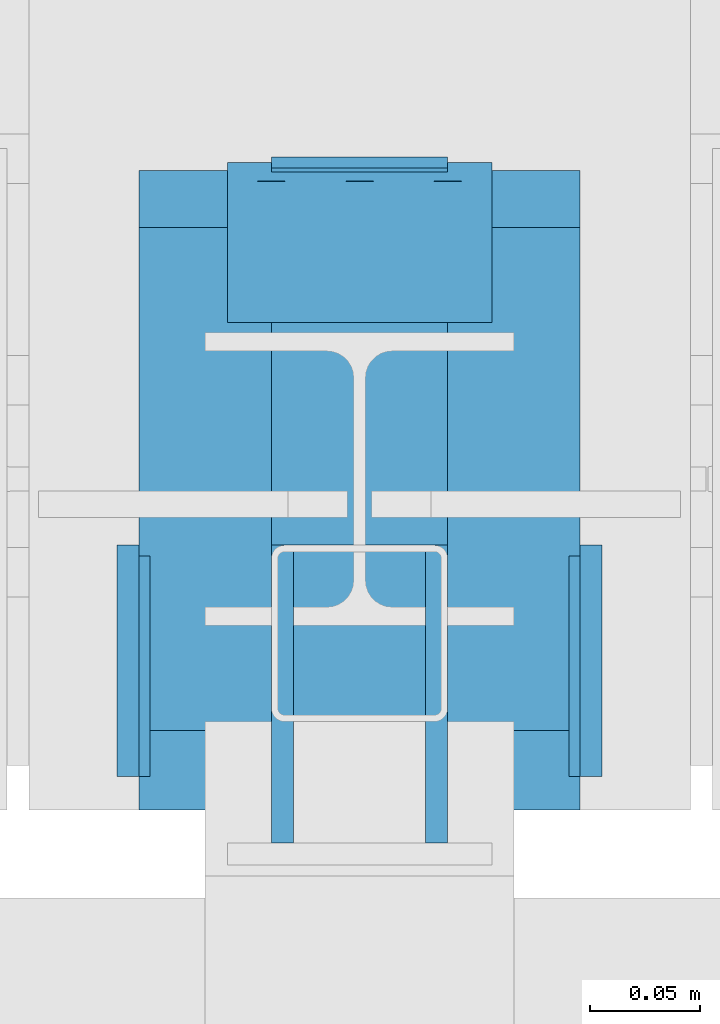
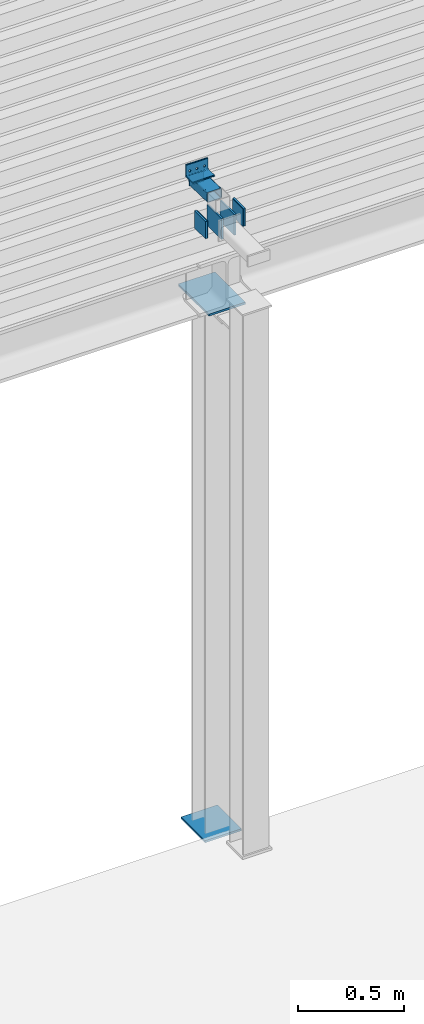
# One storey, part 7 of 34: 10 beams, 1 member.
"""IFC2X3 building model written with IfcOpenShell, lengths in millimetres."""

from ifc_helpers import new_model, entity, si_unit, converted_unit, derived_unit, direction, frame, origin_with_axes, origin_2d_with_axis, place, context, subcontext, project, spatial, rectangle, hollow_rectangle, circle, l_section, extrude, boolean, clip, halfspace, material, type_object, element, save


model = new_model("IFC2X3")

# Units and contexts
model_context = context("Model", 3, precision=0.01, world=frame((0.0, 4.29681676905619e-09, 0.0)), true_north=direction((4.01073788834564e-13, 1.0)))
plan_context = context("Plan", 3, precision=0.01, world=frame((0.0, 4.29681676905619e-09, 0.0)), true_north=direction((4.01073788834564e-13, 1.0)))
body_context = subcontext(model_context, "Body", "Model", "MODEL_VIEW")
ifc_project = project(units=[converted_unit("PLANEANGLEUNIT", "DEGREE", entity("IfcPositiveLengthMeasure", 0.0174532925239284), si_unit("PLANEANGLEUNIT", "RADIAN"), dimensions=[0, 0, 0, 0, 0, 0, 0]), si_unit("AREAUNIT", "SQUARE_METRE"), si_unit("LENGTHUNIT", "METRE", prefix="MILLI"), si_unit("MASSUNIT", "GRAM", prefix="KILO"), si_unit("POWERUNIT", "WATT"), si_unit("PRESSUREUNIT", "PASCAL"), si_unit("FORCEUNIT", "NEWTON", prefix="KILO"), si_unit("ELECTRICVOLTAGEUNIT", "VOLT"), si_unit("ELECTRICCURRENTUNIT", "AMPERE"), si_unit("THERMODYNAMICTEMPERATUREUNIT", "DEGREE_CELSIUS"), si_unit("TIMEUNIT", "SECOND"), si_unit("VOLUMEUNIT", "CUBIC_METRE"), derived_unit("LINEARVELOCITYUNIT", [(si_unit("LENGTHUNIT", "METRE"), 1), (si_unit("TIMEUNIT", "SECOND"), -1)]), derived_unit("VOLUMETRICFLOWRATEUNIT", [(si_unit("VOLUMEUNIT", "CUBIC_METRE"), 1), (si_unit("TIMEUNIT", "SECOND"), -1)]), derived_unit("THERMALTRANSMITTANCEUNIT", [(si_unit("POWERUNIT", "WATT"), 1), (si_unit("THERMODYNAMICTEMPERATUREUNIT", "KELVIN"), -1), (si_unit("AREAUNIT", "SQUARE_METRE"), -1)]), derived_unit("SOUNDPRESSUREUNIT", [(si_unit("PRESSUREUNIT", "PASCAL"), 1)])], contexts=[model_context, plan_context])

# Site, building, storey
site_placement = place(None, frame((0.0, -4.29681676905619e-09, 0.0), z_axis=(0.0, 0.0, 1.0), x_axis=(1.0, 0.0, 0.0)))
site = spatial("IfcSite", under=ifc_project, at=site_placement, Name="Gardermoen", CompositionType="ELEMENT")
building_placement = place(site_placement, frame((0.0, 4.29681676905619e-09, 0.0), z_axis=(0.0, 0.0, 1.0), x_axis=(1.0, 0.0, 0.0)))
building = spatial("IfcBuilding", under=site, at=building_placement, Name="TH", CompositionType="ELEMENT")
storey_placement = place(building_placement, origin_with_axes())
storey = spatial("IfcBuildingStorey", under=building, at=storey_placement, Name="F", CompositionType="ELEMENT", Elevation=0.0)

# Beams
ifc_material_1 = material(Name="STEEL/S355")
beam_type_1 = type_object("IfcBeamType", Name="PL10*100", PredefinedType="NOTDEFINED")
for number, where, z_axis, x_axis in (
    (1, (906895.000000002, 484864.999999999, 213599.998875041), (0.0, 0.0, 1.0), (0.0, 1.0, 0.0)),
    (2, (907105.000000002, 484864.999999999, 213599.998875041), (0.0, 0.0, 1.0), (0.0, 1.0, 0.0)),
):
    element("IfcBeam", number, at=place(storey_placement, frame(where, z_axis=z_axis, x_axis=x_axis)), inside=storey, type_object=beam_type_1, material=ifc_material_1, Name="STÅLSPESIAL", ObjectType="PL10*100", context=body_context, shape_type="SweptSolid", body=[
        extrude(rectangle(XDim=10.0, YDim=100.0, at=origin_2d_with_axis()), frame((105.000000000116, 0.0, 0.0), z_axis=(-1.0, 0.0, 6.61744490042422e-24), x_axis=(0.0, -1.0, 0.0)), (0.0, 0.0, 1.0), 105.0),
    ])
ifc_material_2 = material(Name="STEEL/AISI304")
beam_type_2 = type_object("IfcBeamType", Name="PL5*100", PredefinedType="NOTDEFINED")
for number, where, z_axis, x_axis in (
    (3, (906902.500000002, 484864.999999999, 213599.998875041), (0.0, 0.0, 1.0), (0.0, 1.0, 0.0)),
    (4, (907097.500000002, 484864.999999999, 213599.998875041), (0.0, 0.0, 1.0), (0.0, 1.0, 0.0)),
):
    element("IfcBeam", number, at=place(storey_placement, frame(where, z_axis=z_axis, x_axis=x_axis)), inside=storey, type_object=beam_type_2, material=ifc_material_2, Name="STÅLMONTASJE", ObjectType="PL5*100", context=body_context, shape_type="SweptSolid", body=[
        extrude(rectangle(XDim=5.0, YDim=100.0, at=origin_2d_with_axis()), frame((100.0, 0.0, 0.0), z_axis=(-1.0, 0.0, 6.61744490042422e-24), x_axis=(0.0, -1.0, 0.0)), (0.0, 0.0, 1.0), 100.0),
    ])
beam_type_3 = type_object("IfcBeamType", Name="PL10*120", PredefinedType="NOTDEFINED")
for number, where, z_axis, x_axis in (
    (5, (906965.000000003, 484834.999999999, 213599.998875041), (0.0, 0.0, 1.0), (0.0, 1.0, 0.0)),
    (6, (907035.000000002, 484834.999999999, 213599.998875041), (0.0, 0.0, 1.0), (0.0, 1.0, 0.0)),
):
    element("IfcBeam", number, at=place(storey_placement, frame(where, z_axis=z_axis, x_axis=x_axis)), inside=storey, type_object=beam_type_3, material=ifc_material_1, Name="STÅLSPESIAL", ObjectType="PL10*120", context=body_context, shape_type="SweptSolid", body=[
        extrude(rectangle(XDim=10.0, YDim=120.0, at=origin_2d_with_axis()), frame((135.0, 0.0, 0.0), z_axis=(-1.0, 0.0, 6.61744490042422e-24), x_axis=(0.0, -1.0, 0.0)), (0.0, 0.0, 1.0), 135.0),
    ])
beam_type_4 = type_object("IfcBeamType", Name="L70*7", PredefinedType="NOTDEFINED")
beam_1_placement = place(storey_placement, frame((907060.000000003, 485107.262340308, 213761.217245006), z_axis=(2.34513763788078e-25, -0.999371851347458, 0.0354387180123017), x_axis=(-1.0, 0.0, 6.61744490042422e-24)))
element("IfcBeam", 7, at=beam_1_placement, inside=storey, type_object=beam_type_4, material=ifc_material_2, Name="STÅLSPESIAL", ObjectType="L70*7", context=body_context, shape_type="CSG", body=[
    boolean("DIFFERENCE", boolean("DIFFERENCE", boolean("DIFFERENCE", extrude(l_section(Depth=70.0, Width=70.0, Thickness=7.0, FilletRadius=9.0, EdgeRadius=4.5, at=origin_2d_with_axis()), frame((119.999999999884, 0.0, 0.0), z_axis=(-1.0, 0.0, 6.61744490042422e-24), x_axis=(0.0, -1.0, 0.0)), (0.0, 0.0, 1.0), 120.0), extrude(circle(Radius=6.25, at=origin_2d_with_axis()), frame((100.0, 5.00000000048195, -26.5000000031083), z_axis=(-3.99999553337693e-08, 0.0, -0.999999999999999), x_axis=(1.0, 0.0, 0.0)), (0.0, 0.0, 1.0), 10.0)), extrude(circle(Radius=6.25, at=origin_2d_with_axis()), frame((60.0, 5.00000000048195, -26.5000000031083), z_axis=(-3.99999553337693e-08, 0.0, -0.999999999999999), x_axis=(1.0, 0.0, 0.0)), (0.0, 0.0, 1.0), 10.0)), extrude(circle(Radius=6.25, at=origin_2d_with_axis()), frame((20.0, 5.00000000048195, -26.5000000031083), z_axis=(-3.99999553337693e-08, 0.0, -0.999999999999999), x_axis=(1.0, 0.0, 0.0)), (0.0, 0.0, 1.0), 10.0)),
])
beam_type_5 = type_object("IfcBeamType", Name="RHS80*60*4", PredefinedType="NOTDEFINED")
beam_2_placement = place(storey_placement, frame((907000.000000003, 484969.123181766, 213700.011691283), z_axis=(-1.0, 1.93327255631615e-25, 6.61179205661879e-24), x_axis=(0.0, 0.999572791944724, -0.0292272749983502)))
element("IfcBeam", 8, at=beam_2_placement, inside=storey, type_object=beam_type_5, material=ifc_material_2, Name="STÅLSPESIAL", ObjectType="RHS80*60*4", context=body_context, shape_type="Clipping", body=[
    clip(extrude(hollow_rectangle(XDim=60.0, YDim=80.0, WallThickness=4.0, InnerFilletRadius=4.0, OuterFilletRadius=8.0, at=origin_2d_with_axis()), frame((171.073083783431, 5.9352898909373e-16, 0.0), z_axis=(-1.0, 0.0, 6.61744490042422e-24), x_axis=(0.0, -1.0, 0.0)), (0.0, 0.0, 1.0), 172.85), halfspace(frame((1.03458559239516, 5.38282738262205, -39.9999999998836), z_axis=(0.999572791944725, -0.029227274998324, 0.0), x_axis=(-0.029227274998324, -0.999572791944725, 0.0)), True)),
])
beam_type_6 = type_object("IfcBeamType", Name="PL12*200", PredefinedType="NOTDEFINED")
beam_3_placement = place(storey_placement, frame((907000.000000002, 484849.995625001, 213114.0), z_axis=(1.0, 0.0, 0.0), x_axis=(0.0, 1.0, 0.0)))
element("IfcBeam", 9, at=beam_3_placement, inside=storey, type_object=beam_type_6, material=ifc_material_1, Name="STÅLSØYLE", ObjectType="PL12*200", context=body_context, shape_type="SweptSolid", body=[
    extrude(rectangle(XDim=12.0, YDim=200.0, at=origin_2d_with_axis()), frame((290.0, 0.0, 0.0), z_axis=(-1.0, 0.0, 6.61744490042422e-24), x_axis=(0.0, -1.0, 0.0)), (0.0, 0.0, 1.0), 290.0),
])
beam_4_placement = place(storey_placement, frame((907000.000000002, 484885.995625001, 210046.0), z_axis=(-1.0, 0.0, 6.61744490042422e-24), x_axis=(0.0, 1.0, 0.0)))
element("IfcBeam", 10, at=beam_4_placement, inside=storey, type_object=beam_type_6, material=ifc_material_1, Name="STÅLSØYLE", ObjectType="PL12*200", context=body_context, shape_type="SweptSolid", body=[
    extrude(rectangle(XDim=12.0, YDim=200.0, at=origin_2d_with_axis()), frame((228.0, 0.0, 0.0), z_axis=(-1.0, 0.0, 6.61744490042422e-24), x_axis=(0.0, -1.0, 0.0)), (0.0, 0.0, 1.0), 228.0),
])

# Member
member_type = type_object("IfcMemberType", Name="PL5*80", PredefinedType="NOTDEFINED")
member_placement = place(storey_placement, frame((907000.000000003, 485141.74529549, 213664.951439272), z_axis=(-1.0, -1.93327255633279e-25, 5.65284380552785e-27), x_axis=(0.0, 0.029227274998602, 0.999572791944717)))
element("IfcMember", 11, at=member_placement, inside=storey, type_object=member_type, material=ifc_material_2, Name="STÅLSPESIAL", ObjectType="PL5*80", context=body_context, shape_type="SweptSolid", body=[
    extrude(rectangle(XDim=5.0, YDim=80.0, at=origin_2d_with_axis()), frame((59.9999999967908, -5.82043302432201e-11, 2.91038304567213e-11), z_axis=(-1.0, 0.0, 6.61744490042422e-24), x_axis=(0.0, -1.0, 0.0)), (0.0, 0.0, 1.0), 60.0),
])

save(model, "model.ifc")
